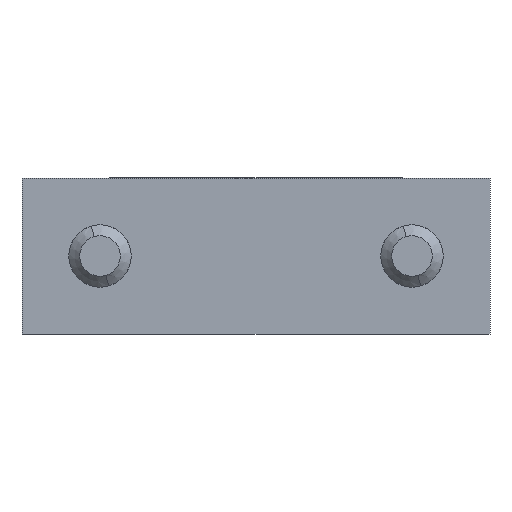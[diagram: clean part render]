
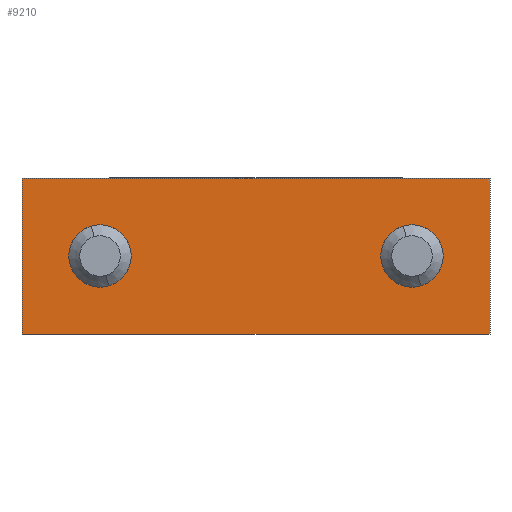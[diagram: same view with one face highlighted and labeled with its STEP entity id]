
A CAD part, front view. The second image highlights one B-rep face of the part: STEP entity #9210.
In plain terms, the highlighted planar face has unit normal (0, -1, 0).
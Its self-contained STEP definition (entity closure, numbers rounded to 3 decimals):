
#39 = EDGE_CURVE ( 'NONE', #16378, #20905, #778, .T. ) ;
#173 = VERTEX_POINT ( 'NONE', #10671 ) ;
#421 = EDGE_LOOP ( 'NONE', ( #13517, #20288 ) ) ;
#660 = DIRECTION ( 'NONE',  ( 1., 0., 0. ) ) ;
#778 = CIRCLE ( 'NONE', #13657, 2. ) ;
#806 = VERTEX_POINT ( 'NONE', #9897 ) ;
#830 = DIRECTION ( 'NONE',  ( 1., 0., 0. ) ) ;
#1117 = VERTEX_POINT ( 'NONE', #1347 ) ;
#1274 = FACE_OUTER_BOUND ( 'NONE', #7961, .T. ) ;
#1285 = CARTESIAN_POINT ( 'NONE',  ( -31.18, 33.758, 0. ) ) ;
#1347 = CARTESIAN_POINT ( 'NONE',  ( -58.18, 33.758, -5. ) ) ;
#1491 = PLANE ( 'NONE',  #2742 ) ;
#1562 = DIRECTION ( 'NONE',  ( 0., -1., 0. ) ) ;
#1621 = EDGE_CURVE ( 'NONE', #20905, #16378, #20872, .T. ) ;
#1646 = EDGE_CURVE ( 'NONE', #10215, #19533, #2573, .T. ) ;
#2165 = AXIS2_PLACEMENT_3D ( 'NONE', #9232, #7422, #19568 ) ;
#2239 = ORIENTED_EDGE ( 'NONE', *, *, #16868, .T. ) ;
#2262 = VERTEX_POINT ( 'NONE', #9122 ) ;
#2573 = CIRCLE ( 'NONE', #4460, 2. ) ;
#2742 = AXIS2_PLACEMENT_3D ( 'NONE', #11825, #1562, #13562 ) ;
#2965 = VECTOR ( 'NONE', #8091, 1000. ) ;
#4088 = ORIENTED_EDGE ( 'NONE', *, *, #5828, .T. ) ;
#4460 = AXIS2_PLACEMENT_3D ( 'NONE', #16034, #17855, #660 ) ;
#4523 = LINE ( 'NONE', #18421, #13633 ) ;
#4675 = ORIENTED_EDGE ( 'NONE', *, *, #10060, .F. ) ;
#4757 = AXIS2_PLACEMENT_3D ( 'NONE', #21405, #11084, #830 ) ;
#5828 = EDGE_CURVE ( 'NONE', #2262, #173, #20720, .T. ) ;
#6251 = ORIENTED_EDGE ( 'NONE', *, *, #1646, .F. ) ;
#6343 = CARTESIAN_POINT ( 'NONE',  ( -43.18, 33.758, 5. ) ) ;
#6348 = FACE_BOUND ( 'NONE', #10200, .T. ) ;
#7078 = CIRCLE ( 'NONE', #4757, 2. ) ;
#7422 = DIRECTION ( 'NONE',  ( 0., 1., 0. ) ) ;
#7961 = EDGE_LOOP ( 'NONE', ( #21641, #15638, #4088, #2239 ) ) ;
#7972 = CARTESIAN_POINT ( 'NONE',  ( -35.18, 33.758, 0. ) ) ;
#8059 = DIRECTION ( 'NONE',  ( 1., 0., 0. ) ) ;
#8091 = DIRECTION ( 'NONE',  ( 0., 0., 1. ) ) ;
#8523 = VECTOR ( 'NONE', #21863, 1000. ) ;
#8900 = CARTESIAN_POINT ( 'NONE',  ( -55.18, 33.758, 0. ) ) ;
#9122 = CARTESIAN_POINT ( 'NONE',  ( -28.18, 33.758, -5. ) ) ;
#9210 = ADVANCED_FACE ( 'NONE', ( #14950, #6348, #1274 ), #1491, .T. ) ;
#9232 = CARTESIAN_POINT ( 'NONE',  ( -53.18, 33.758, 0. ) ) ;
#9897 = CARTESIAN_POINT ( 'NONE',  ( -58.18, 33.758, 5. ) ) ;
#10060 = EDGE_CURVE ( 'NONE', #19533, #10215, #7078, .T. ) ;
#10200 = EDGE_LOOP ( 'NONE', ( #4675, #6251 ) ) ;
#10215 = VERTEX_POINT ( 'NONE', #7972 ) ;
#10671 = CARTESIAN_POINT ( 'NONE',  ( -28.18, 33.758, 5. ) ) ;
#10917 = CARTESIAN_POINT ( 'NONE',  ( -58.18, 33.758, 0. ) ) ;
#11064 = LINE ( 'NONE', #10917, #19703 ) ;
#11084 = DIRECTION ( 'NONE',  ( 0., -1., 0. ) ) ;
#11825 = CARTESIAN_POINT ( 'NONE',  ( -58.18, 33.758, 5. ) ) ;
#12615 = DIRECTION ( 'NONE',  ( 0., 0., -1. ) ) ;
#13517 = ORIENTED_EDGE ( 'NONE', *, *, #1621, .T. ) ;
#13562 = DIRECTION ( 'NONE',  ( 0., 0., -1. ) ) ;
#13633 = VECTOR ( 'NONE', #8059, 1000. ) ;
#13657 = AXIS2_PLACEMENT_3D ( 'NONE', #19870, #19725, #19571 ) ;
#14862 = CARTESIAN_POINT ( 'NONE',  ( -28.18, 33.758, 0. ) ) ;
#14950 = FACE_BOUND ( 'NONE', #421, .T. ) ;
#15552 = CARTESIAN_POINT ( 'NONE',  ( -51.18, 33.758, 0. ) ) ;
#15638 = ORIENTED_EDGE ( 'NONE', *, *, #16845, .T. ) ;
#16034 = CARTESIAN_POINT ( 'NONE',  ( -33.18, 33.758, 0. ) ) ;
#16378 = VERTEX_POINT ( 'NONE', #8900 ) ;
#16845 = EDGE_CURVE ( 'NONE', #1117, #2262, #4523, .T. ) ;
#16868 = EDGE_CURVE ( 'NONE', #173, #806, #22275, .T. ) ;
#17855 = DIRECTION ( 'NONE',  ( 0., -1., 0. ) ) ;
#18421 = CARTESIAN_POINT ( 'NONE',  ( -43.18, 33.758, -5. ) ) ;
#18776 = EDGE_CURVE ( 'NONE', #806, #1117, #11064, .T. ) ;
#19533 = VERTEX_POINT ( 'NONE', #1285 ) ;
#19568 = DIRECTION ( 'NONE',  ( 1., 0., 0. ) ) ;
#19571 = DIRECTION ( 'NONE',  ( 1., 0., 0. ) ) ;
#19703 = VECTOR ( 'NONE', #12615, 1000. ) ;
#19725 = DIRECTION ( 'NONE',  ( 0., 1., 0. ) ) ;
#19870 = CARTESIAN_POINT ( 'NONE',  ( -53.18, 33.758, 0. ) ) ;
#20288 = ORIENTED_EDGE ( 'NONE', *, *, #39, .T. ) ;
#20720 = LINE ( 'NONE', #14862, #2965 ) ;
#20872 = CIRCLE ( 'NONE', #2165, 2. ) ;
#20905 = VERTEX_POINT ( 'NONE', #15552 ) ;
#21405 = CARTESIAN_POINT ( 'NONE',  ( -33.18, 33.758, 0. ) ) ;
#21641 = ORIENTED_EDGE ( 'NONE', *, *, #18776, .T. ) ;
#21863 = DIRECTION ( 'NONE',  ( -1., 0., 0. ) ) ;
#22275 = LINE ( 'NONE', #6343, #8523 ) ;
